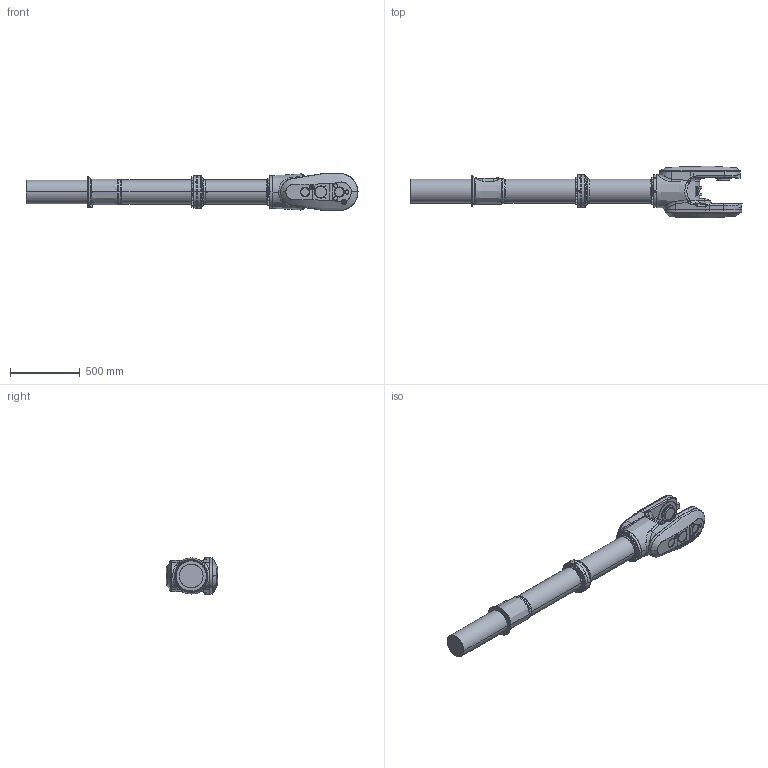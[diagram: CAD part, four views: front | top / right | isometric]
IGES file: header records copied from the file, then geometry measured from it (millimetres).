
Start section: SolidWorks IGES file using analytic representation for surfaces
Global section: file name: N:\DM\Robotics\SEROP_PROJ\Product Development\DevelopmentProjects\Manipulator_Modularity\04. Product Design\06. CAD\Amanda\6730S Simulation models\IRB6730S_150kg-400_OC_01_IGES_J\IRB6730S_All-400_OC_00_LINK04_CAD.igs; native system: SolidWorks 2024; preprocessor: SolidWorks 2024; author: SEJOHLUN; date: 251219.140153; units: millimetre
Bounding box: 2378.63 x 369.02 x 267.05 mm (x, y, z)
Surface area: 1851003.7 mm2 (no closed solid volume)
Topology: 0 solids, 0 shells, 799 faces, 13704 edges, 13678 vertices
Faces by surface type: bspline 407, revolution 392
